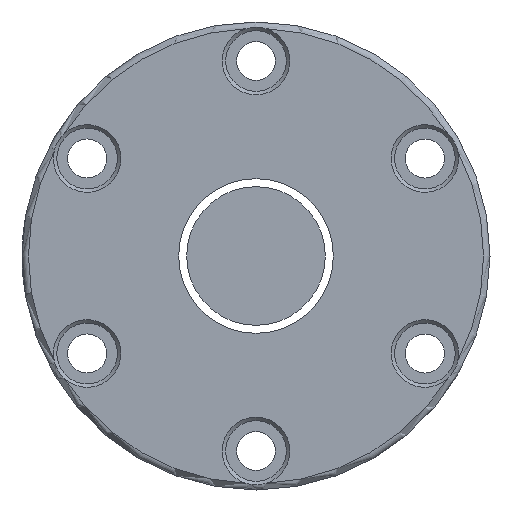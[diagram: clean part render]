
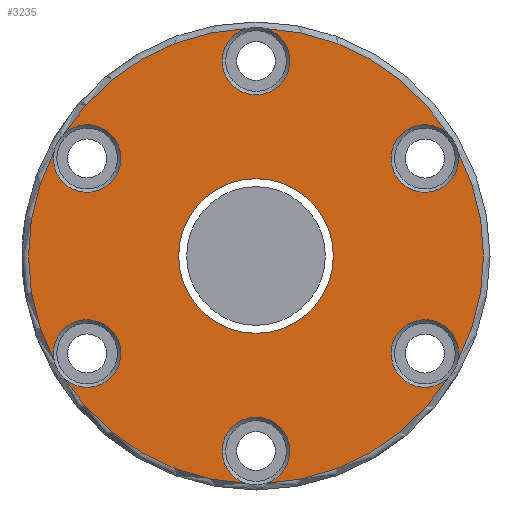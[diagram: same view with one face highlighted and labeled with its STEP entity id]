
A CAD part, left-side view. The second image highlights one B-rep face of the part: STEP entity #3235.
In plain terms, the highlighted planar face has unit normal (-1, 0, 0).
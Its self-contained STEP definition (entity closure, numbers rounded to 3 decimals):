
#5 = VERTEX_POINT ( 'NONE', #67 ) ;
#48 = CARTESIAN_POINT ( 'NONE',  ( -100., -44.265, 28.228 ) ) ;
#67 = CARTESIAN_POINT ( 'NONE',  ( -100., -2.314, 52.449 ) ) ;
#86 = DIRECTION ( 'NONE',  ( 0., 0., 1. ) ) ;
#126 = FACE_OUTER_BOUND ( 'NONE', #869, .T. ) ;
#130 = ORIENTED_EDGE ( 'NONE', *, *, #2998, .T. ) ;
#148 = DIRECTION ( 'NONE',  ( -1., 0., 0. ) ) ;
#192 = ORIENTED_EDGE ( 'NONE', *, *, #2314, .T. ) ;
#267 = AXIS2_PLACEMENT_3D ( 'NONE', #871, #579, #268 ) ;
#268 = DIRECTION ( 'NONE',  ( 0., 0., 1. ) ) ;
#316 = ORIENTED_EDGE ( 'NONE', *, *, #3458, .T. ) ;
#321 = CARTESIAN_POINT ( 'NONE',  ( -100., -46.579, 24.221 ) ) ;
#342 = CARTESIAN_POINT ( 'NONE',  ( -100., 0., -45. ) ) ;
#400 = AXIS2_PLACEMENT_3D ( 'NONE', #342, #2057, #1215 ) ;
#455 = CIRCLE ( 'NONE', #2734, 7.8 ) ;
#490 = CARTESIAN_POINT ( 'NONE',  ( -100., 38.971, 22.5 ) ) ;
#552 = CARTESIAN_POINT ( 'NONE',  ( -100., 44.265, 28.228 ) ) ;
#579 = DIRECTION ( 'NONE',  ( -1., 0., 0. ) ) ;
#648 = DIRECTION ( 'NONE',  ( 0., 0., 1. ) ) ;
#656 = VERTEX_POINT ( 'NONE', #1134 ) ;
#676 = ORIENTED_EDGE ( 'NONE', *, *, #2387, .T. ) ;
#690 = FACE_BOUND ( 'NONE', #3566, .T. ) ;
#701 = DIRECTION ( 'NONE',  ( -1., 0., 0. ) ) ;
#706 = DIRECTION ( 'NONE',  ( 0., 0., 1. ) ) ;
#762 = AXIS2_PLACEMENT_3D ( 'NONE', #1570, #2766, #706 ) ;
#765 = CIRCLE ( 'NONE', #1269, 7.8 ) ;
#869 = EDGE_LOOP ( 'NONE', ( #316, #2219, #130, #676, #192, #2598, #3509, #3032, #1816, #1910, #1948, #3087 ) ) ;
#871 = CARTESIAN_POINT ( 'NONE',  ( -100., 0., 0. ) ) ;
#948 = VERTEX_POINT ( 'NONE', #48 ) ;
#963 = CARTESIAN_POINT ( 'NONE',  ( -100., 0., 0. ) ) ;
#974 = CARTESIAN_POINT ( 'NONE',  ( -100., 44.265, -28.228 ) ) ;
#1031 = DIRECTION ( 'NONE',  ( 1., 0., 0. ) ) ;
#1071 = AXIS2_PLACEMENT_3D ( 'NONE', #3339, #701, #3388 ) ;
#1134 = CARTESIAN_POINT ( 'NONE',  ( -100., -2.314, -52.449 ) ) ;
#1136 = EDGE_CURVE ( 'NONE', #3422, #2137, #2043, .T. ) ;
#1144 = CIRCLE ( 'NONE', #3532, 52.5 ) ;
#1199 = EDGE_CURVE ( 'NONE', #1864, #3323, #455, .T. ) ;
#1215 = DIRECTION ( 'NONE',  ( 0., 0., 1. ) ) ;
#1238 = EDGE_CURVE ( 'NONE', #2737, #3589, #3525, .T. ) ;
#1267 = DIRECTION ( 'NONE',  ( -1., 0., 0. ) ) ;
#1269 = AXIS2_PLACEMENT_3D ( 'NONE', #1467, #3187, #1486 ) ;
#1288 = VERTEX_POINT ( 'NONE', #2169 ) ;
#1371 = CARTESIAN_POINT ( 'NONE',  ( -100., -46.579, -24.221 ) ) ;
#1467 = CARTESIAN_POINT ( 'NONE',  ( -100., 0., 45. ) ) ;
#1486 = DIRECTION ( 'NONE',  ( 0., 0., 1. ) ) ;
#1514 = CARTESIAN_POINT ( 'NONE',  ( -100., 0., 0. ) ) ;
#1547 = DIRECTION ( 'NONE',  ( 1., 0., 0. ) ) ;
#1559 = AXIS2_PLACEMENT_3D ( 'NONE', #2109, #1267, #648 ) ;
#1570 = CARTESIAN_POINT ( 'NONE',  ( -100., 54., 0. ) ) ;
#1580 = CARTESIAN_POINT ( 'NONE',  ( -100., 0., 0. ) ) ;
#1601 = EDGE_CURVE ( 'NONE', #3323, #2851, #3288, .T. ) ;
#1622 = CIRCLE ( 'NONE', #2858, 7.8 ) ;
#1678 = CIRCLE ( 'NONE', #3041, 52.5 ) ;
#1698 = CARTESIAN_POINT ( 'NONE',  ( -100., 38.971, -22.5 ) ) ;
#1759 = DIRECTION ( 'NONE',  ( -1., 0., 0. ) ) ;
#1793 = EDGE_CURVE ( 'NONE', #656, #1864, #1678, .T. ) ;
#1816 = ORIENTED_EDGE ( 'NONE', *, *, #1199, .T. ) ;
#1831 = DIRECTION ( 'NONE',  ( 1., 0., 0. ) ) ;
#1864 = VERTEX_POINT ( 'NONE', #3117 ) ;
#1910 = ORIENTED_EDGE ( 'NONE', *, *, #1601, .T. ) ;
#1948 = ORIENTED_EDGE ( 'NONE', *, *, #3634, .T. ) ;
#2010 = CARTESIAN_POINT ( 'NONE',  ( -100., 2.314, 52.449 ) ) ;
#2043 = CIRCLE ( 'NONE', #3036, 52.5 ) ;
#2057 = DIRECTION ( 'NONE',  ( 1., 0., 0. ) ) ;
#2109 = CARTESIAN_POINT ( 'NONE',  ( -100., 0., 0. ) ) ;
#2137 = VERTEX_POINT ( 'NONE', #552 ) ;
#2145 = CARTESIAN_POINT ( 'NONE',  ( -100., 46.579, -24.221 ) ) ;
#2161 = CARTESIAN_POINT ( 'NONE',  ( -100., -38.971, 22.5 ) ) ;
#2169 = CARTESIAN_POINT ( 'NONE',  ( -100., 0., -17.85 ) ) ;
#2219 = ORIENTED_EDGE ( 'NONE', *, *, #1136, .T. ) ;
#2314 = EDGE_CURVE ( 'NONE', #2494, #2737, #3166, .T. ) ;
#2387 = EDGE_CURVE ( 'NONE', #2711, #2494, #2739, .T. ) ;
#2399 = DIRECTION ( 'NONE',  ( 0., 0., 1. ) ) ;
#2427 = AXIS2_PLACEMENT_3D ( 'NONE', #1698, #2878, #2597 ) ;
#2452 = CARTESIAN_POINT ( 'NONE',  ( -100., 2.314, -52.449 ) ) ;
#2460 = PLANE ( 'NONE',  #762 ) ;
#2494 = VERTEX_POINT ( 'NONE', #2145 ) ;
#2563 = CARTESIAN_POINT ( 'NONE',  ( -100., 0., 0. ) ) ;
#2579 = EDGE_CURVE ( 'NONE', #1288, #1288, #2741, .T. ) ;
#2597 = DIRECTION ( 'NONE',  ( 0., 0., 1. ) ) ;
#2598 = ORIENTED_EDGE ( 'NONE', *, *, #1238, .T. ) ;
#2624 = AXIS2_PLACEMENT_3D ( 'NONE', #1580, #1031, #3643 ) ;
#2697 = DIRECTION ( 'NONE',  ( -1., 0., 0. ) ) ;
#2704 = CARTESIAN_POINT ( 'NONE',  ( -100., 46.579, 24.221 ) ) ;
#2711 = VERTEX_POINT ( 'NONE', #2704 ) ;
#2734 = AXIS2_PLACEMENT_3D ( 'NONE', #3285, #1547, #86 ) ;
#2737 = VERTEX_POINT ( 'NONE', #974 ) ;
#2739 = CIRCLE ( 'NONE', #1071, 52.5 ) ;
#2741 = CIRCLE ( 'NONE', #2624, 17.85 ) ;
#2744 = AXIS2_PLACEMENT_3D ( 'NONE', #2161, #1831, #3337 ) ;
#2766 = DIRECTION ( 'NONE',  ( -1., 0., 0. ) ) ;
#2797 = CIRCLE ( 'NONE', #400, 7.8 ) ;
#2839 = EDGE_CURVE ( 'NONE', #3589, #656, #2797, .T. ) ;
#2851 = VERTEX_POINT ( 'NONE', #321 ) ;
#2858 = AXIS2_PLACEMENT_3D ( 'NONE', #490, #3613, #2874 ) ;
#2874 = DIRECTION ( 'NONE',  ( 0., 0., 1. ) ) ;
#2878 = DIRECTION ( 'NONE',  ( 1., 0., 0. ) ) ;
#2953 = EDGE_CURVE ( 'NONE', #948, #5, #1144, .T. ) ;
#2976 = DIRECTION ( 'NONE',  ( 0., 0., 1. ) ) ;
#2998 = EDGE_CURVE ( 'NONE', #2137, #2711, #1622, .T. ) ;
#3012 = ORIENTED_EDGE ( 'NONE', *, *, #2579, .T. ) ;
#3032 = ORIENTED_EDGE ( 'NONE', *, *, #1793, .T. ) ;
#3036 = AXIS2_PLACEMENT_3D ( 'NONE', #963, #1759, #2976 ) ;
#3041 = AXIS2_PLACEMENT_3D ( 'NONE', #2563, #148, #3382 ) ;
#3045 = CIRCLE ( 'NONE', #2744, 7.8 ) ;
#3087 = ORIENTED_EDGE ( 'NONE', *, *, #2953, .T. ) ;
#3117 = CARTESIAN_POINT ( 'NONE',  ( -100., -44.265, -28.228 ) ) ;
#3166 = CIRCLE ( 'NONE', #2427, 7.8 ) ;
#3187 = DIRECTION ( 'NONE',  ( 1., 0., 0. ) ) ;
#3235 = ADVANCED_FACE ( 'NONE', ( #126, #690 ), #2460, .T. ) ;
#3285 = CARTESIAN_POINT ( 'NONE',  ( -100., -38.971, -22.5 ) ) ;
#3288 = CIRCLE ( 'NONE', #267, 52.5 ) ;
#3323 = VERTEX_POINT ( 'NONE', #1371 ) ;
#3337 = DIRECTION ( 'NONE',  ( 0., 0., 1. ) ) ;
#3339 = CARTESIAN_POINT ( 'NONE',  ( -100., 0., 0. ) ) ;
#3382 = DIRECTION ( 'NONE',  ( 0., 0., 1. ) ) ;
#3388 = DIRECTION ( 'NONE',  ( 0., 0., 1. ) ) ;
#3422 = VERTEX_POINT ( 'NONE', #2010 ) ;
#3458 = EDGE_CURVE ( 'NONE', #5, #3422, #765, .T. ) ;
#3509 = ORIENTED_EDGE ( 'NONE', *, *, #2839, .T. ) ;
#3525 = CIRCLE ( 'NONE', #1559, 52.5 ) ;
#3532 = AXIS2_PLACEMENT_3D ( 'NONE', #1514, #2697, #2399 ) ;
#3566 = EDGE_LOOP ( 'NONE', ( #3012 ) ) ;
#3589 = VERTEX_POINT ( 'NONE', #2452 ) ;
#3613 = DIRECTION ( 'NONE',  ( 1., 0., 0. ) ) ;
#3634 = EDGE_CURVE ( 'NONE', #2851, #948, #3045, .T. ) ;
#3643 = DIRECTION ( 'NONE',  ( 0., 0., -1. ) ) ;
